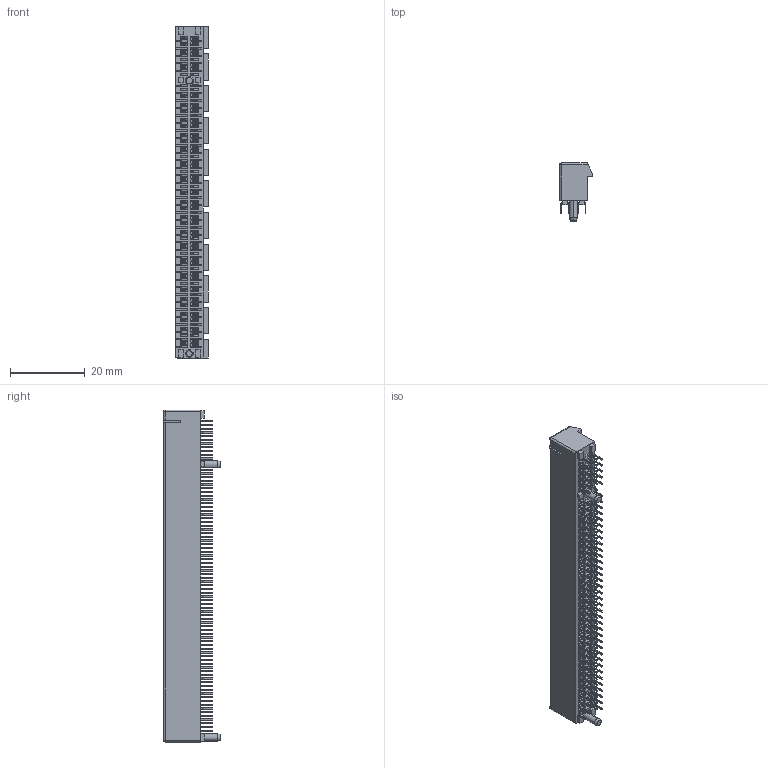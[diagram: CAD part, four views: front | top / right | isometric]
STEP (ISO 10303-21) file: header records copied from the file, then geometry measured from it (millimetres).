
FILE_DESCRIPTION (( 'STEP AP203' ), '1' );
FILE_NAME ('TE PCIe Express x16 (2.3mm Pins).STEP', '2015-01-12T00:33:27', ( '' ), ( '' ), 'SwSTEP 2.0', 'SolidWorks 2013', '' );
FILE_SCHEMA (( 'CONFIG_CONTROL_DESIGN' ));
Length unit declared in the file: millimetre
Products named in the file (4): PCIe Body_PCIe x16; Pins_Internal Pin (Short); Pins_External Pin (Short); TE PCIe Express x16 (2.3mm Pins)
Assembly tree (165 placements, depth 2):
  TE PCIe Express x16 (2.3mm Pins)
    PCIe Body_PCIe x16
    Pins_Internal Pin (Short)  x82
    Pins_External Pin (Short)  x82
Bounding box: 8.8 x 15.4 x 89 mm (x, y, z)
Volume: 4369.3 mm3; surface area: 13598.6 mm2
Topology: 165 solids, 165 shells, 5870 faces, 17537 edges, 11677 vertices
Faces by surface type: plane 3886, cylinder 1978, cone 4, sphere 2
Entity records: 68529 total; most frequent: ORIENTED_EDGE 11742, CARTESIAN_POINT 11614, DIRECTION 9589, EDGE_CURVE 5871, LINE 5797, VECTOR 5797, VERTEX_POINT 3901, EDGE_LOOP 1996
